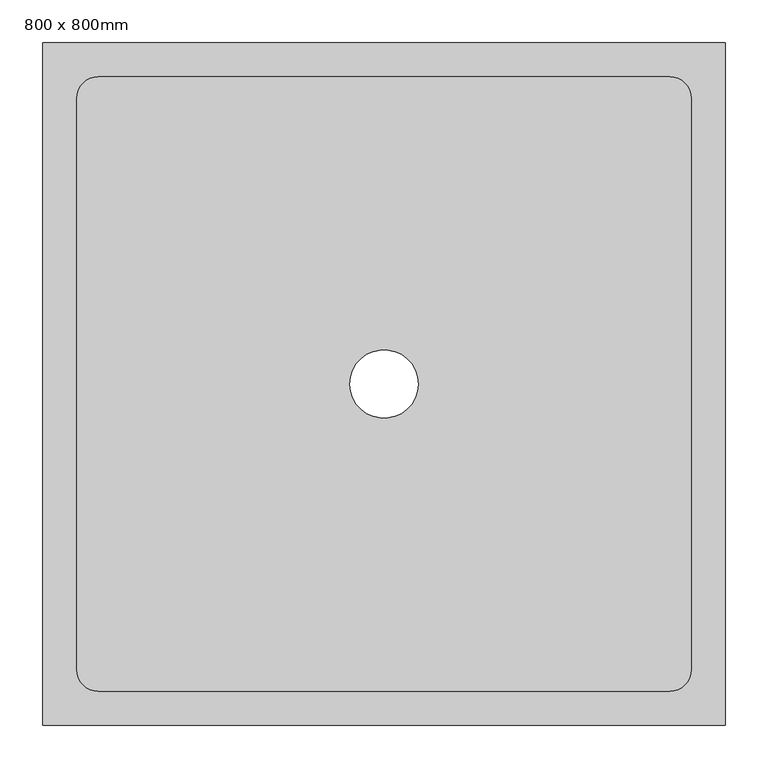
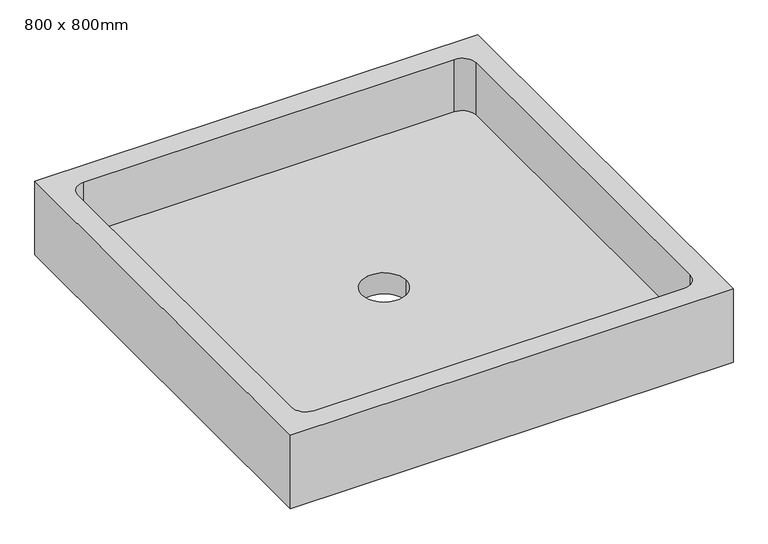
"""IFC4 building model written with IfcOpenShell, lengths in millimetres: flow terminal geometry, Receveur d'angle - Vidange axée : 800 x 800mm."""

from ifc_helpers import new_model, si_unit, frame, origin, origin_with_axes, place, context, project, spatial, polyline, circle_curve, source, transform, mapped, element, save
from ifc_brep_helpers import plane_surface, revolved_surface, advanced_brep


def flow_terminal_800_x_800mm_07a2eba6(model_context):
    return source(origin(), model_context, "Body", "AdvancedBrep", [
        advanced_brep(
        [(400.0, 400.0, 140.0), (-400.0, 400.0, 140.0), (-400.0, -400.0, 140.0), (400.0, -400.0, 140.0), (360.0, -334.6, 140.0), (334.6, -360.0, 140.0), (-334.6, -360.0, 140.0), (-360.0, -334.6, 140.0), (-360.0, 334.6, 140.0), (-334.6, 360.0, 140.0), (334.6, 360.0, 140.0), (360.0, 334.6, 140.0), (400.0, 400.0, 0.0), (400.0, -400.0, 0.0), (-400.0, -400.0, 0.0), (-400.0, 400.0, 0.0), (-40.0, 0.0, 0.0), (40.0, 0.0, 0.0), (334.6, -360.0, 40.0), (360.0, -334.6, 40.0), (360.0, 334.6, 40.0), (334.6, 360.0, 40.0), (-334.6, 360.0, 40.0), (-360.0, 334.6, 40.0), (-360.0, -334.6, 40.0), (-334.6, -360.0, 40.0), (40.0, 0.0, 40.0), (-40.0, 0.0, 40.0)],
        [
            (0, 1),
            (1, 2),
            (2, 3),
            (3, 0),
            (4, 5, circle_curve(frame((334.6, -334.6, 140.0), z_axis=(0.0, 0.0, -1.0), x_axis=(1.0, 0.0, 0.0)), 25.4)),
            (5, 6),
            (6, 7, circle_curve(frame((-334.6, -334.6, 140.0), z_axis=(0.0, 0.0, -1.0), x_axis=(1.0, 0.0, 0.0)), 25.4)),
            (7, 8),
            (8, 9, circle_curve(frame((-334.6, 334.6, 140.0), z_axis=(0.0, 0.0, -1.0), x_axis=(1.0, 0.0, 0.0)), 25.4)),
            (9, 10),
            (10, 11, circle_curve(frame((334.6, 334.6, 140.0), z_axis=(0.0, 0.0, -1.0), x_axis=(1.0, 0.0, 0.0)), 25.4)),
            (11, 4),
            (12, 13),
            (13, 14),
            (14, 15),
            (15, 12),
            (16, 17, circle_curve(origin_with_axes(), 40.0)),
            (17, 16, circle_curve(origin_with_axes(), 40.0)),
            (0, 12),
            (15, 1),
            (14, 2),
            (13, 3),
            (18, 19, circle_curve(frame((334.6, -334.6, 40.0), z_axis=(0.0, 0.0, 1.0), x_axis=(1.0, 0.0, 0.0)), 25.4)),
            (19, 20),
            (20, 21, circle_curve(frame((334.6, 334.6, 40.0), z_axis=(0.0, 0.0, 1.0), x_axis=(1.0, 0.0, 0.0)), 25.4)),
            (21, 22),
            (22, 23, circle_curve(frame((-334.6, 334.6, 40.0), z_axis=(0.0, 0.0, 1.0), x_axis=(1.0, 0.0, 0.0)), 25.4)),
            (23, 24),
            (24, 25, circle_curve(frame((-334.6, -334.6, 40.0), z_axis=(0.0, 0.0, 1.0), x_axis=(1.0, 0.0, 0.0)), 25.4)),
            (25, 18),
            (26, 27, circle_curve(frame((0.0, 0.0, 40.0), z_axis=(0.0, 0.0, -1.0), x_axis=(1.0, 0.0, 0.0)), 40.0)),
            (27, 26, circle_curve(frame((0.0, 0.0, 40.0), z_axis=(0.0, 0.0, -1.0), x_axis=(1.0, 0.0, 0.0)), 40.0)),
            (18, 5),
            (4, 19),
            (11, 20),
            (10, 21),
            (9, 22),
            (8, 23),
            (7, 24),
            (6, 25),
            (16, 27),
            (26, 17),
        ],
        [
            plane_surface(frame((-400.0, 400.0, 140.0), z_axis=(0.0, 0.0, 1.0), x_axis=(-1.0, 0.0, 0.0))),
            plane_surface(frame((-400.0, 400.0, 0.0), z_axis=(0.0, 0.0, -1.0), x_axis=(1.0, 0.0, 0.0))),
            plane_surface(frame((400.0, 400.0, 140.0), z_axis=(0.0, 1.0, 0.0), x_axis=(0.0, 0.0, -1.0))),
            plane_surface(frame((-400.0, 400.0, 140.0), z_axis=(-1.0, 0.0, 0.0), x_axis=(0.0, 0.0, -1.0))),
            plane_surface(frame((-400.0, -400.0, 140.0), z_axis=(0.0, -1.0, 0.0), x_axis=(0.0, 0.0, -1.0))),
            plane_surface(frame((400.0, -400.0, 140.0), z_axis=(1.0, 0.0, 0.0), x_axis=(0.0, 0.0, -1.0))),
            plane_surface(frame((360.0, -334.6, 40.0), z_axis=(0.0, 0.0, 1.0), x_axis=(0.0, -1.0, 0.0))),
            revolved_surface(polyline([(360.0, -334.6, 140.0), (360.0, -334.6, 40.0)]), (334.6, -334.6, 40.0), (0.0, 0.0, 1.0)),
            plane_surface(frame((360.0, -334.6, 140.0), z_axis=(-1.0, 0.0, 0.0), x_axis=(0.0, 0.0, -1.0))),
            revolved_surface(polyline([(360.0, 334.6, 140.0), (360.0, 334.6, 40.0)]), (334.6, 334.6, 40.0), (0.0, 0.0, 1.0)),
            plane_surface(frame((334.6, 360.0, 140.0), z_axis=(0.0, -1.0, 0.0), x_axis=(0.0, 0.0, -1.0))),
            revolved_surface(polyline([(-309.20000000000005, 334.6, 140.0), (-309.20000000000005, 334.6, 40.0)]), (-334.6, 334.6, 40.0), (0.0, 0.0, 1.0)),
            plane_surface(frame((-360.0, 334.6, 140.0), z_axis=(1.0, 0.0, 0.0), x_axis=(0.0, 0.0, -1.0))),
            revolved_surface(polyline([(-309.20000000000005, -334.6, 140.0), (-309.20000000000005, -334.6, 40.0)]), (-334.6, -334.6, 40.0), (0.0, 0.0, 1.0)),
            plane_surface(frame((-334.6, -360.0, 140.0), z_axis=(0.0, 1.0, 0.0), x_axis=(0.0, 0.0, -1.0))),
            revolved_surface(polyline([(40.0, 0.0, 40.0), (40.0, 0.0, 0.0)]), (0.0, 0.0, 0.0), (0.0, 0.0, 1.0)),
        ],
        [
            (0, [[1, 2, 3, 4], [5, 6, 7, 8, 9, 10, 11, 12]]),
            (1, [[13, 14, 15, 16], [17, 18]]),
            (2, [[-1, 19, -16, 20]]),
            (3, [[-2, -20, -15, 21]]),
            (4, [[-3, -21, -14, 22]]),
            (5, [[-4, -22, -13, -19]]),
            (6, [[23, 24, 25, 26, 27, 28, 29, 30], [31, 32]]),
            (7, [[-23, 33, -5, 34]]),
            (8, [[-24, -34, -12, 35]]),
            (9, [[-25, -35, -11, 36]]),
            (10, [[-26, -36, -10, 37]]),
            (11, [[-27, -37, -9, 38]]),
            (12, [[-28, -38, -8, 39]]),
            (13, [[-29, -39, -7, 40]]),
            (14, [[-30, -40, -6, -33]]),
            (15, [[41, -31, 42, -17]]),
            (15, [[-41, -18, -42, -32]]),
        ],
    ),
    ])


if __name__ == "__main__":
    model = new_model("IFC4")
    model_context = context("Model", 3, world=origin())
    ifc_project = project(units=[si_unit("LENGTHUNIT", "METRE", prefix="MILLI")], contexts=[model_context])
    site = spatial("IfcSite", under=ifc_project)
    building = spatial("IfcBuilding", under=site)
    placement = place(None, origin())
    flow_terminal_800_x_800mm_shape = flow_terminal_800_x_800mm_07a2eba6(model_context)
    element("IfcFlowTerminal", 1, ObjectType="Receveur d'angle - Vidange axée : 800 x 800mm", at=placement, inside=building, context=model_context, shape_type="MappedRepresentation", body=[
        mapped(flow_terminal_800_x_800mm_shape, transform((0.0, 0.0, 0.0), x_axis=(1.0, 0.0, 0.0), y_axis=(0.0, 1.0, 0.0), z_axis=(0.0, 0.0, 1.0))),
    ])
    save(model, "model.ifc")
